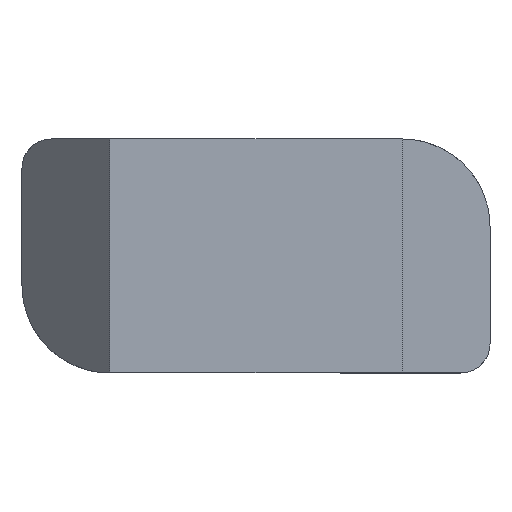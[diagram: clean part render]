
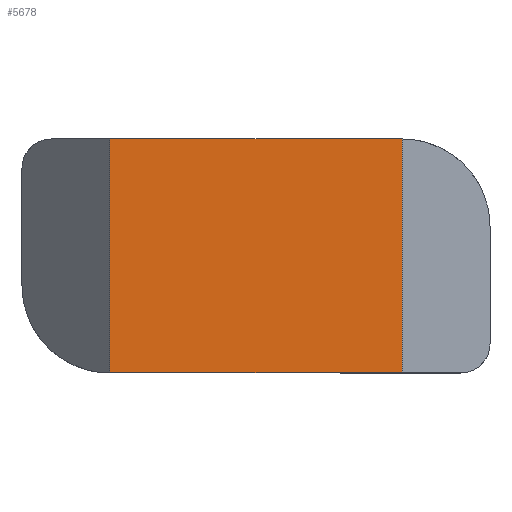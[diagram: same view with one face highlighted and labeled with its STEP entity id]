
A CAD part, front view. The second image highlights one B-rep face of the part: STEP entity #5678.
In plain terms, the highlighted planar face has unit normal (0, -1, 0).
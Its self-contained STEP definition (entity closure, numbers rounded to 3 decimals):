
#1 = EDGE_CURVE ( 'NONE', #257, #3021, #1992, .T. ) ;
#138 = VECTOR ( 'NONE', #3769, 1000. ) ;
#174 = EDGE_CURVE ( 'NONE', #1696, #4188, #463, .T. ) ;
#257 = VERTEX_POINT ( 'NONE', #1515 ) ;
#463 = LINE ( 'NONE', #539, #5048 ) ;
#539 = CARTESIAN_POINT ( 'NONE',  ( 5., -6.5, 4. ) ) ;
#661 = CARTESIAN_POINT ( 'NONE',  ( -5., -6.5, -4. ) ) ;
#1026 = DIRECTION ( 'NONE',  ( 0., 0., -1. ) ) ;
#1136 = AXIS2_PLACEMENT_3D ( 'NONE', #1507, #2847, #3712 ) ;
#1507 = CARTESIAN_POINT ( 'NONE',  ( -5., -6.5, 4. ) ) ;
#1515 = CARTESIAN_POINT ( 'NONE',  ( -5., -6.5, 4. ) ) ;
#1646 = VECTOR ( 'NONE', #4490, 1000. ) ;
#1696 = VERTEX_POINT ( 'NONE', #3509 ) ;
#1780 = EDGE_LOOP ( 'NONE', ( #1849, #2162, #2822, #3727 ) ) ;
#1849 = ORIENTED_EDGE ( 'NONE', *, *, #4237, .T. ) ;
#1938 = EDGE_CURVE ( 'NONE', #257, #1696, #2167, .T. ) ;
#1939 = LINE ( 'NONE', #661, #138 ) ;
#1992 = LINE ( 'NONE', #4052, #1646 ) ;
#2162 = ORIENTED_EDGE ( 'NONE', *, *, #174, .F. ) ;
#2167 = LINE ( 'NONE', #3113, #3213 ) ;
#2211 = DIRECTION ( 'NONE',  ( 1., 0., 0. ) ) ;
#2491 = FACE_OUTER_BOUND ( 'NONE', #1780, .T. ) ;
#2822 = ORIENTED_EDGE ( 'NONE', *, *, #1938, .F. ) ;
#2847 = DIRECTION ( 'NONE',  ( 0., 1., 0. ) ) ;
#3021 = VERTEX_POINT ( 'NONE', #3319 ) ;
#3113 = CARTESIAN_POINT ( 'NONE',  ( -5., -6.5, 4. ) ) ;
#3213 = VECTOR ( 'NONE', #2211, 1000. ) ;
#3319 = CARTESIAN_POINT ( 'NONE',  ( -5., -6.5, -4. ) ) ;
#3509 = CARTESIAN_POINT ( 'NONE',  ( 5., -6.5, 4. ) ) ;
#3712 = DIRECTION ( 'NONE',  ( -1., 0., 0. ) ) ;
#3727 = ORIENTED_EDGE ( 'NONE', *, *, #1, .T. ) ;
#3769 = DIRECTION ( 'NONE',  ( 1., 0., 0. ) ) ;
#4052 = CARTESIAN_POINT ( 'NONE',  ( -5., -6.5, 4. ) ) ;
#4188 = VERTEX_POINT ( 'NONE', #5016 ) ;
#4237 = EDGE_CURVE ( 'NONE', #3021, #4188, #1939, .T. ) ;
#4490 = DIRECTION ( 'NONE',  ( 0., 0., -1. ) ) ;
#5016 = CARTESIAN_POINT ( 'NONE',  ( 5., -6.5, -4. ) ) ;
#5048 = VECTOR ( 'NONE', #1026, 1000. ) ;
#5480 = PLANE ( 'NONE',  #1136 ) ;
#5678 = ADVANCED_FACE ( 'NONE', ( #2491 ), #5480, .F. ) ;
